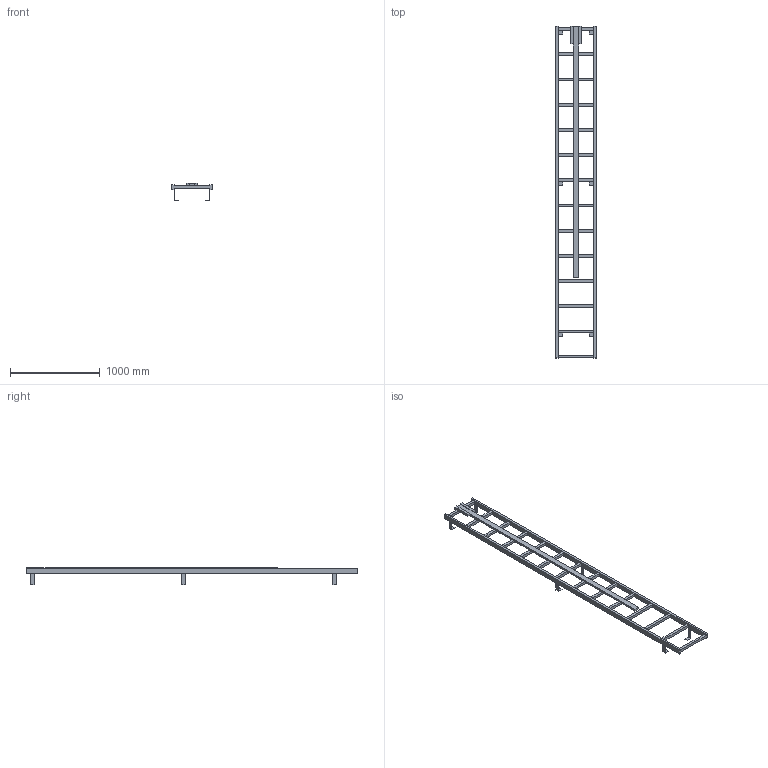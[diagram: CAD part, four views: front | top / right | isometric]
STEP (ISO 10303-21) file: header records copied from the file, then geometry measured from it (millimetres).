
FILE_DESCRIPTION((''),'2;1');
FILE_NAME('017_000109','2017-06-12T',('set'),('HUBER SE'),'PRO/ENGINEER BY PARAMETRIC TECHNOLOGY CORPORATION, 2015280','PRO/ENGINEER BY PARAMETRIC TECHNOLOGY CORPORATION, 2015280','');
FILE_SCHEMA(('CONFIG_CONTROL_DESIGN'));
Length unit declared in the file: millimetre
Products named in the file (1): 017_000109
Bounding box: 450 x 3690 x 195 mm (x, y, z)
Volume: 19777140 mm3; surface area: 2397940 mm2
Topology: 1 solids, 1 shells, 148 faces, 551 edges, 381 vertices
Faces by surface type: plane 148
Entity records: 5660 total; most frequent: CARTESIAN_POINT 1135, ORIENTED_EDGE 900, DIRECTION 830, VECTOR 504, LINE 504, EDGE_CURVE 450, VERTEX_POINT 280, EDGE_LOOP 168
